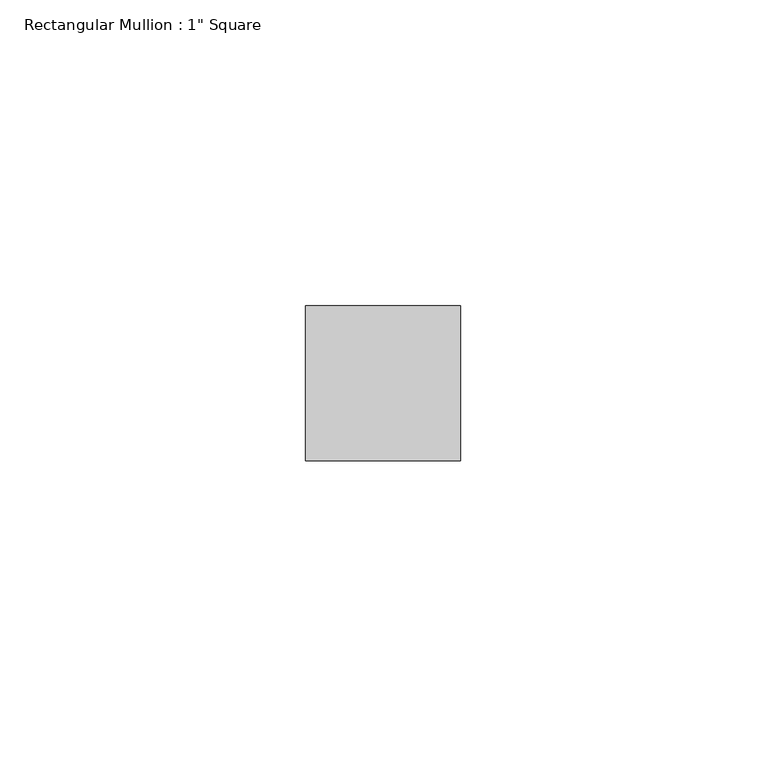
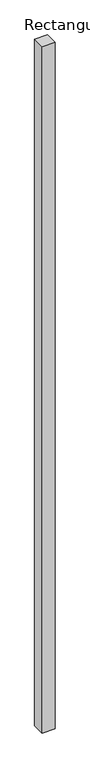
"""IFC4 building model written with IfcOpenShell, lengths in millimetres: member geometry."""

from ifc_helpers import new_model, si_unit, frame, origin, place, context, project, spatial, polyline, outline, extrude, source, transform, mapped, element, save


def member_088ab3f2(model_context):
    return source(origin(), model_context, "Body", "SweptSolid", [
        extrude(outline(polyline([(12.7, 12.7), (12.7, -12.7), (-12.7, -12.7), (-12.7, 12.7), (12.7, 12.7)])), frame((0.0, 0.0, -1428.2620159), z_axis=(0.0, 0.0, 1.0), x_axis=(1.0, 0.0, 0.0)), (0.0, 0.0, 1.0), 1428.2620159),
    ])


if __name__ == "__main__":
    model = new_model("IFC4")
    model_context = context("Model", 3, world=origin())
    ifc_project = project(units=[si_unit("LENGTHUNIT", "METRE", prefix="MILLI")], contexts=[model_context])
    site = spatial("IfcSite", under=ifc_project)
    building = spatial("IfcBuilding", under=site)
    placement = place(None, origin())
    member_shape = member_088ab3f2(model_context)
    element("IfcMember", 1, ObjectType="Rectangular Mullion : 1\" Square", at=placement, inside=building, context=model_context, shape_type="MappedRepresentation", body=[
        mapped(member_shape, transform((0.0, 0.0, 0.0), x_axis=(1.0, 0.0, 0.0), y_axis=(0.0, 1.0, 0.0), z_axis=(0.0, 0.0, 1.0))),
    ])
    save(model, "model.ifc")
